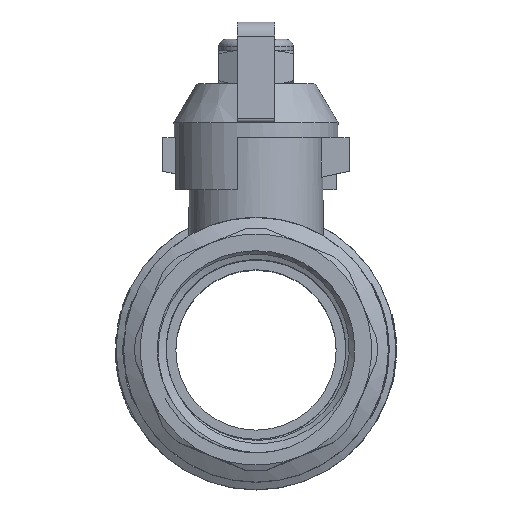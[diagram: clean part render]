
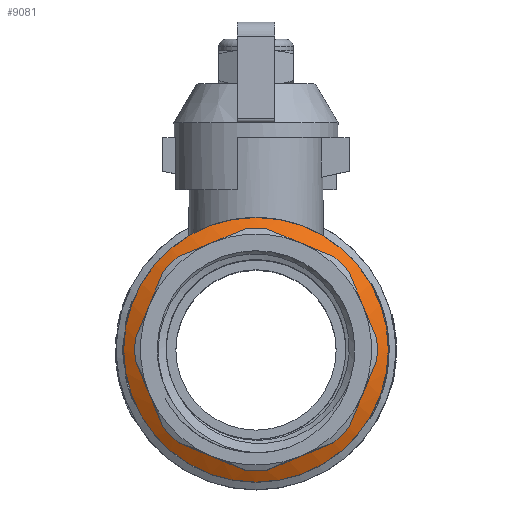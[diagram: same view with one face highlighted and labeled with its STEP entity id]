
A CAD part, top view. The second image highlights one B-rep face of the part: STEP entity #9081.
In plain terms, the highlighted conical face has half-angle 60 degrees and reference radius 17 mm.
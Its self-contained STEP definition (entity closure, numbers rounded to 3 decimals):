
#39=(
BOUNDED_CURVE()
B_SPLINE_CURVE(2,(#26131,#26132,#26133),.UNSPECIFIED.,.F.,.F.)
B_SPLINE_CURVE_WITH_KNOTS((3,3),(15.369,21.617),
 .UNSPECIFIED.)
CURVE()
GEOMETRIC_REPRESENTATION_ITEM()
RATIONAL_B_SPLINE_CURVE((5.668,5.942,5.668))
REPRESENTATION_ITEM('')
);
#44=(
BOUNDED_CURVE()
B_SPLINE_CURVE(2,(#26155,#26156,#26157),.UNSPECIFIED.,.F.,.F.)
B_SPLINE_CURVE_WITH_KNOTS((3,3),(15.369,21.617),
 .UNSPECIFIED.)
CURVE()
GEOMETRIC_REPRESENTATION_ITEM()
RATIONAL_B_SPLINE_CURVE((5.668,5.942,5.668))
REPRESENTATION_ITEM('')
);
#45=(
BOUNDED_CURVE()
B_SPLINE_CURVE(2,(#26163,#26164,#26165),.UNSPECIFIED.,.F.,.F.)
B_SPLINE_CURVE_WITH_KNOTS((3,3),(15.369,21.617),
 .UNSPECIFIED.)
CURVE()
GEOMETRIC_REPRESENTATION_ITEM()
RATIONAL_B_SPLINE_CURVE((5.668,5.942,5.668))
REPRESENTATION_ITEM('')
);
#50=(
BOUNDED_CURVE()
B_SPLINE_CURVE(2,(#26187,#26188,#26189),.UNSPECIFIED.,.F.,.F.)
B_SPLINE_CURVE_WITH_KNOTS((3,3),(15.369,21.617),
 .UNSPECIFIED.)
CURVE()
GEOMETRIC_REPRESENTATION_ITEM()
RATIONAL_B_SPLINE_CURVE((5.668,5.942,5.668))
REPRESENTATION_ITEM('')
);
#51=(
BOUNDED_CURVE()
B_SPLINE_CURVE(2,(#26195,#26196,#26197),.UNSPECIFIED.,.F.,.F.)
B_SPLINE_CURVE_WITH_KNOTS((3,3),(15.369,21.617),
 .UNSPECIFIED.)
CURVE()
GEOMETRIC_REPRESENTATION_ITEM()
RATIONAL_B_SPLINE_CURVE((5.668,5.942,5.668))
REPRESENTATION_ITEM('')
);
#56=(
BOUNDED_CURVE()
B_SPLINE_CURVE(2,(#26219,#26220,#26221),.UNSPECIFIED.,.F.,.F.)
B_SPLINE_CURVE_WITH_KNOTS((3,3),(15.369,21.617),
 .UNSPECIFIED.)
CURVE()
GEOMETRIC_REPRESENTATION_ITEM()
RATIONAL_B_SPLINE_CURVE((5.668,5.942,5.668))
REPRESENTATION_ITEM('')
);
#57=(
BOUNDED_CURVE()
B_SPLINE_CURVE(2,(#26227,#26228,#26229),.UNSPECIFIED.,.F.,.F.)
B_SPLINE_CURVE_WITH_KNOTS((3,3),(15.369,21.617),
 .UNSPECIFIED.)
CURVE()
GEOMETRIC_REPRESENTATION_ITEM()
RATIONAL_B_SPLINE_CURVE((5.668,5.942,5.668))
REPRESENTATION_ITEM('')
);
#62=(
BOUNDED_CURVE()
B_SPLINE_CURVE(2,(#26251,#26252,#26253),.UNSPECIFIED.,.F.,.F.)
B_SPLINE_CURVE_WITH_KNOTS((3,3),(15.369,21.617),
 .UNSPECIFIED.)
CURVE()
GEOMETRIC_REPRESENTATION_ITEM()
RATIONAL_B_SPLINE_CURVE((5.668,5.942,5.668))
REPRESENTATION_ITEM('')
);
#156=FACE_BOUND('',#1946,.T.);
#633=CONICAL_SURFACE('',#9696,17.,1.047);
#1397=FACE_OUTER_BOUND('',#1945,.T.);
#1945=EDGE_LOOP('',(#8361));
#1946=EDGE_LOOP('',(#8362,#8363,#8364,#8365,#8366,#8367,#8368,#8369,#8370,
#8371,#8372,#8373,#8374,#8375,#8376,#8377));
#2112=CIRCLE('',#9392,17.75);
#2170=CIRCLE('',#9560,16.25);
#2171=CIRCLE('',#9562,16.25);
#2172=CIRCLE('',#9564,16.25);
#2173=CIRCLE('',#9566,16.25);
#2174=CIRCLE('',#9568,16.25);
#2175=CIRCLE('',#9570,16.25);
#2176=CIRCLE('',#9572,16.25);
#2229=CIRCLE('',#9695,16.25);
#4259=VERTEX_POINT('',#23175);
#4433=VERTEX_POINT('',#26127);
#4435=VERTEX_POINT('',#26130);
#4438=VERTEX_POINT('',#26144);
#4440=VERTEX_POINT('',#26153);
#4441=VERTEX_POINT('',#26159);
#4443=VERTEX_POINT('',#26162);
#4446=VERTEX_POINT('',#26176);
#4448=VERTEX_POINT('',#26185);
#4449=VERTEX_POINT('',#26191);
#4451=VERTEX_POINT('',#26194);
#4454=VERTEX_POINT('',#26208);
#4456=VERTEX_POINT('',#26217);
#4457=VERTEX_POINT('',#26223);
#4459=VERTEX_POINT('',#26226);
#4462=VERTEX_POINT('',#26240);
#4464=VERTEX_POINT('',#26249);
#5323=EDGE_CURVE('',#4259,#4259,#2112,.T.);
#5628=EDGE_CURVE('',#4435,#4433,#39,.T.);
#5636=EDGE_CURVE('',#4438,#4440,#44,.T.);
#5638=EDGE_CURVE('',#4443,#4441,#45,.T.);
#5646=EDGE_CURVE('',#4446,#4448,#50,.T.);
#5648=EDGE_CURVE('',#4451,#4449,#51,.T.);
#5656=EDGE_CURVE('',#4454,#4456,#56,.T.);
#5658=EDGE_CURVE('',#4459,#4457,#57,.T.);
#5666=EDGE_CURVE('',#4462,#4464,#62,.T.);
#5674=EDGE_CURVE('',#4464,#4459,#2170,.T.);
#5675=EDGE_CURVE('',#4457,#4451,#2171,.T.);
#5676=EDGE_CURVE('',#4456,#4462,#2172,.T.);
#5677=EDGE_CURVE('',#4449,#4443,#2173,.T.);
#5678=EDGE_CURVE('',#4448,#4454,#2174,.T.);
#5679=EDGE_CURVE('',#4441,#4435,#2175,.T.);
#5680=EDGE_CURVE('',#4440,#4446,#2176,.T.);
#5849=EDGE_CURVE('',#4433,#4438,#2229,.T.);
#8361=ORIENTED_EDGE('',*,*,#5323,.F.);
#8362=ORIENTED_EDGE('',*,*,#5849,.T.);
#8363=ORIENTED_EDGE('',*,*,#5636,.T.);
#8364=ORIENTED_EDGE('',*,*,#5680,.T.);
#8365=ORIENTED_EDGE('',*,*,#5646,.T.);
#8366=ORIENTED_EDGE('',*,*,#5678,.T.);
#8367=ORIENTED_EDGE('',*,*,#5656,.T.);
#8368=ORIENTED_EDGE('',*,*,#5676,.T.);
#8369=ORIENTED_EDGE('',*,*,#5666,.T.);
#8370=ORIENTED_EDGE('',*,*,#5674,.T.);
#8371=ORIENTED_EDGE('',*,*,#5658,.T.);
#8372=ORIENTED_EDGE('',*,*,#5675,.T.);
#8373=ORIENTED_EDGE('',*,*,#5648,.T.);
#8374=ORIENTED_EDGE('',*,*,#5677,.T.);
#8375=ORIENTED_EDGE('',*,*,#5638,.T.);
#8376=ORIENTED_EDGE('',*,*,#5679,.T.);
#8377=ORIENTED_EDGE('',*,*,#5628,.T.);
#9081=ADVANCED_FACE('',(#1397,#156),#633,.T.);
#9392=AXIS2_PLACEMENT_3D('',#23176,#10601,#10602);
#9560=AXIS2_PLACEMENT_3D('',#26269,#11103,#11104);
#9562=AXIS2_PLACEMENT_3D('',#26271,#11107,#11108);
#9564=AXIS2_PLACEMENT_3D('',#26273,#11111,#11112);
#9566=AXIS2_PLACEMENT_3D('',#26275,#11115,#11116);
#9568=AXIS2_PLACEMENT_3D('',#26277,#11119,#11120);
#9570=AXIS2_PLACEMENT_3D('',#26279,#11123,#11124);
#9572=AXIS2_PLACEMENT_3D('',#26281,#11127,#11128);
#9695=AXIS2_PLACEMENT_3D('',#26693,#11457,#11458);
#9696=AXIS2_PLACEMENT_3D('',#26694,#11459,#11460);
#10601=DIRECTION('center_axis',(0.,0.,-1.));
#10602=DIRECTION('ref_axis',(1.,0.,0.));
#11103=DIRECTION('center_axis',(0.,0.,-1.));
#11104=DIRECTION('ref_axis',(1.,0.,0.));
#11107=DIRECTION('center_axis',(0.,0.,-1.));
#11108=DIRECTION('ref_axis',(1.,0.,0.));
#11111=DIRECTION('center_axis',(0.,0.,-1.));
#11112=DIRECTION('ref_axis',(1.,0.,0.));
#11115=DIRECTION('center_axis',(0.,0.,-1.));
#11116=DIRECTION('ref_axis',(1.,0.,0.));
#11119=DIRECTION('center_axis',(0.,0.,-1.));
#11120=DIRECTION('ref_axis',(1.,0.,0.));
#11123=DIRECTION('center_axis',(0.,0.,-1.));
#11124=DIRECTION('ref_axis',(1.,0.,0.));
#11127=DIRECTION('center_axis',(0.,0.,-1.));
#11128=DIRECTION('ref_axis',(1.,0.,0.));
#11457=DIRECTION('center_axis',(0.,0.,-1.));
#11458=DIRECTION('ref_axis',(1.,0.,0.));
#11459=DIRECTION('center_axis',(0.,0.,-1.));
#11460=DIRECTION('ref_axis',(0.,-1.,0.));
#23175=CARTESIAN_POINT('',(0.,-17.75,10.162));
#23176=CARTESIAN_POINT('Origin',(0.,0.,10.162));
#26127=CARTESIAN_POINT('',(12.453,-10.44,11.028));
#26130=CARTESIAN_POINT('',(16.188,-1.423,11.028));
#26131=CARTESIAN_POINT('Ctrl Pts',(16.188,-1.423,11.028));
#26132=CARTESIAN_POINT('Ctrl Pts',(14.32,-5.932,11.874));
#26133=CARTESIAN_POINT('Ctrl Pts',(12.453,-10.44,11.028));
#26144=CARTESIAN_POINT('',(10.44,-12.453,11.028));
#26153=CARTESIAN_POINT('',(1.423,-16.188,11.028));
#26155=CARTESIAN_POINT('Ctrl Pts',(10.44,-12.453,11.028));
#26156=CARTESIAN_POINT('Ctrl Pts',(5.932,-14.32,11.874));
#26157=CARTESIAN_POINT('Ctrl Pts',(1.423,-16.188,11.028));
#26159=CARTESIAN_POINT('',(16.188,1.423,11.028));
#26162=CARTESIAN_POINT('',(12.453,10.44,11.028));
#26163=CARTESIAN_POINT('Ctrl Pts',(12.453,10.44,11.028));
#26164=CARTESIAN_POINT('Ctrl Pts',(14.32,5.932,11.874));
#26165=CARTESIAN_POINT('Ctrl Pts',(16.188,1.423,11.028));
#26176=CARTESIAN_POINT('',(-1.423,-16.188,11.028));
#26185=CARTESIAN_POINT('',(-10.44,-12.453,11.028));
#26187=CARTESIAN_POINT('Ctrl Pts',(-1.423,-16.188,
11.028));
#26188=CARTESIAN_POINT('Ctrl Pts',(-5.932,-14.32,
11.874));
#26189=CARTESIAN_POINT('Ctrl Pts',(-10.44,-12.453,
11.028));
#26191=CARTESIAN_POINT('',(10.44,12.453,11.028));
#26194=CARTESIAN_POINT('',(1.423,16.188,11.028));
#26195=CARTESIAN_POINT('Ctrl Pts',(1.423,16.188,11.028));
#26196=CARTESIAN_POINT('Ctrl Pts',(5.932,14.32,11.874));
#26197=CARTESIAN_POINT('Ctrl Pts',(10.44,12.453,11.028));
#26208=CARTESIAN_POINT('',(-12.453,-10.44,11.028));
#26217=CARTESIAN_POINT('',(-16.188,-1.423,11.028));
#26219=CARTESIAN_POINT('Ctrl Pts',(-12.453,-10.44,
11.028));
#26220=CARTESIAN_POINT('Ctrl Pts',(-14.32,-5.932,
11.874));
#26221=CARTESIAN_POINT('Ctrl Pts',(-16.188,-1.423,
11.028));
#26223=CARTESIAN_POINT('',(-1.423,16.188,11.028));
#26226=CARTESIAN_POINT('',(-10.44,12.453,11.028));
#26227=CARTESIAN_POINT('Ctrl Pts',(-10.44,12.453,11.028));
#26228=CARTESIAN_POINT('Ctrl Pts',(-5.932,14.32,11.874));
#26229=CARTESIAN_POINT('Ctrl Pts',(-1.423,16.188,11.028));
#26240=CARTESIAN_POINT('',(-16.188,1.423,11.028));
#26249=CARTESIAN_POINT('',(-12.453,10.44,11.028));
#26251=CARTESIAN_POINT('Ctrl Pts',(-16.188,1.423,11.028));
#26252=CARTESIAN_POINT('Ctrl Pts',(-14.32,5.932,11.874));
#26253=CARTESIAN_POINT('Ctrl Pts',(-12.453,10.44,11.028));
#26269=CARTESIAN_POINT('Origin',(0.,0.,11.028));
#26271=CARTESIAN_POINT('Origin',(0.,0.,11.028));
#26273=CARTESIAN_POINT('Origin',(0.,0.,11.028));
#26275=CARTESIAN_POINT('Origin',(0.,0.,11.028));
#26277=CARTESIAN_POINT('Origin',(0.,0.,11.028));
#26279=CARTESIAN_POINT('Origin',(0.,0.,11.028));
#26281=CARTESIAN_POINT('Origin',(0.,0.,11.028));
#26693=CARTESIAN_POINT('Origin',(0.,0.,11.028));
#26694=CARTESIAN_POINT('Origin',(0.,0.,10.595));
